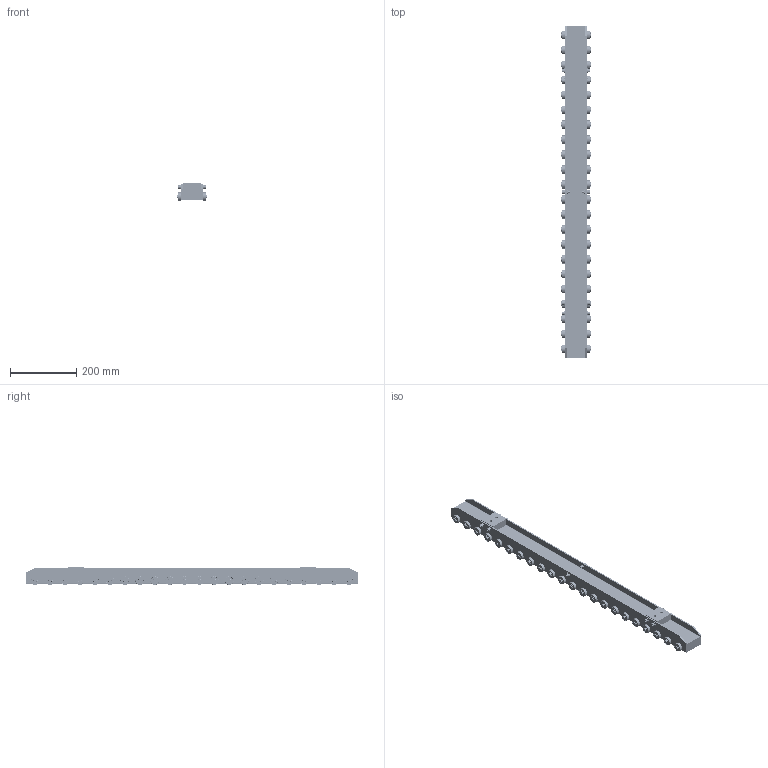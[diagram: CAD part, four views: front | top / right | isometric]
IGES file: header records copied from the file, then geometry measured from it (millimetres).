
Global section: file name: SPR-RSPO-065Wx050Hx1000L; native system: unknown; preprocessor: unknown; author: unknown; organization: unknown; date: 20221115.144907; units: millimetre
Bounding box: 92 x 1000 x 53.98 mm (x, y, z)
Volume: 912418.8 mm3; surface area: 864241 mm2
Topology: 708 solids, 752 shells, 3934 faces, 11278 edges, 7680 vertices
Faces by surface type: bspline 3934
